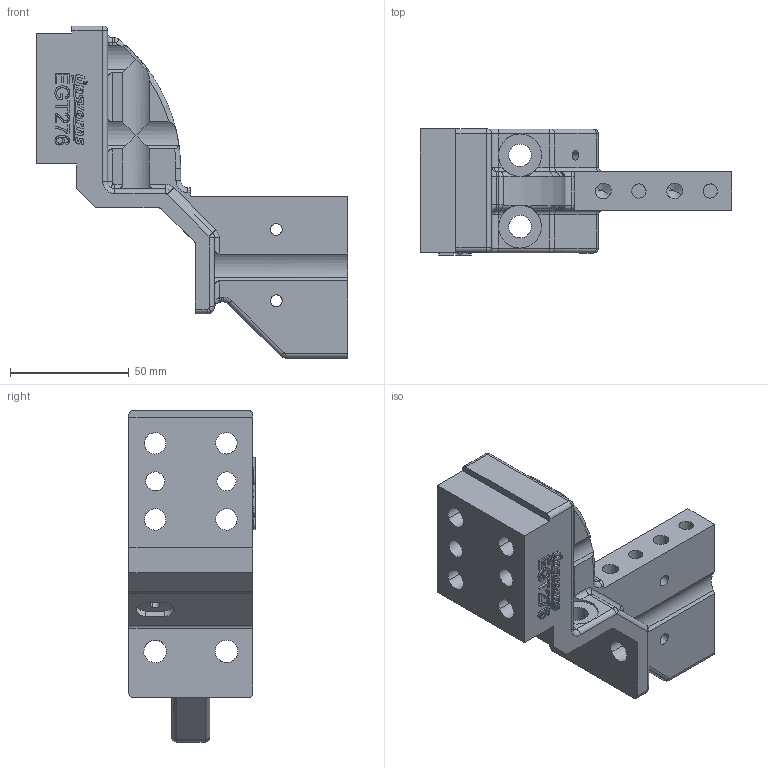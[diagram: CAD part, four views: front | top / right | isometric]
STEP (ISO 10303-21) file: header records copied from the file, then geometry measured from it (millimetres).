
FILE_DESCRIPTION(('CATIA V5 STEP Exchange'),'2;1');
FILE_NAME('C:\Users\User\Desktop\stp\EGT276.stp','2017-07-21T01:42:01+00:00',('none'),('none'),'CATIA Version 5 Release 21 GA (IN-10)','CATIA V5 STEP AP203','none');
FILE_SCHEMA(('CONFIG_CONTROL_DESIGN'));
Length unit declared in the file: millimetre
Products named in the file (1): EGT276
Bounding box: 131 x 53 x 139.56 mm (x, y, z)
Volume: 179661.5 mm3; surface area: 45961.8 mm2
Topology: 1 solids, 1 shells, 1044 faces, 2976 edges, 1950 vertices
Faces by surface type: plane 749, cylinder 141, extrusion 100, torus 24, revolution 16, cone 8, bspline 4, sphere 2
Entity records: 35252 total; most frequent: CARTESIAN_POINT 9123, ORIENTED_EDGE 5932, DIRECTION 4395, EDGE_CURVE 2966, VECTOR 2470, LINE 2370, VERTEX_POINT 1950, EDGE_LOOP 1098
